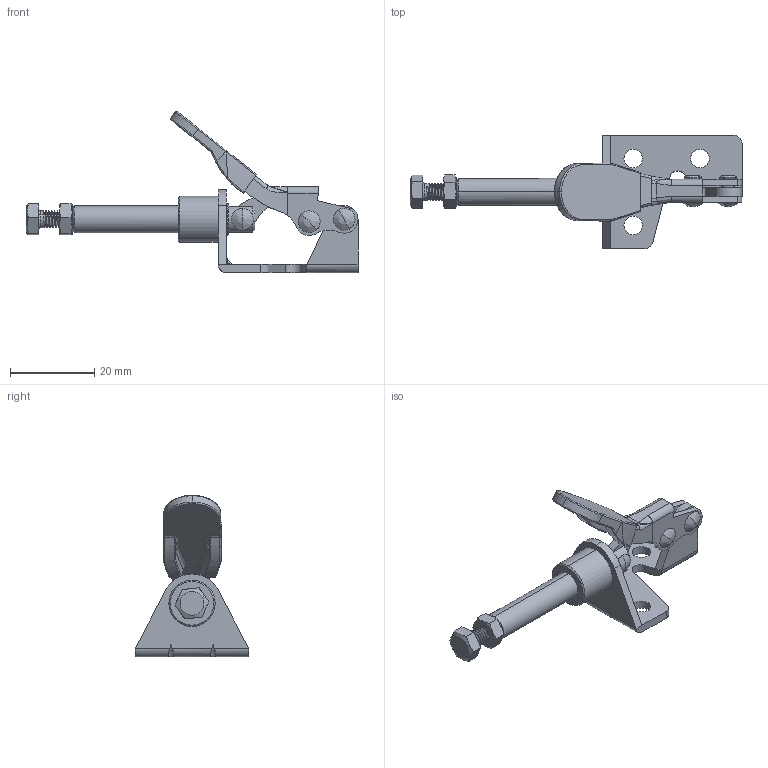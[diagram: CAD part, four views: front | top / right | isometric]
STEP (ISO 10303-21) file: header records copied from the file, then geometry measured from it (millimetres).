
FILE_DESCRIPTION (( 'STEP AP214' ), '1' );
FILE_NAME ('DST-301-AM.STEP', '2022-01-13T08:20:43', ( '' ), ( '' ), 'SwSTEP 2.0', 'SolidWorks 2015', '' );
FILE_SCHEMA (( 'AUTOMOTIVE_DESIGN' ));
Length unit declared in the file: millimetre
Products named in the file (12): DST-301-06; DST-301-AM-01 BASE; DST-301-AM-04 CONNECTING-PLATE; DST-301-AM; DST-301-AM-05 LEAD SET; DST-301-03-02; DST-301-AM-03 HANDLE; DST-301-AM-02 CREST STALK; DST-SA-042007 SPINDLE SUPPLIED; DST-M4 Nut; DST-301-03-01; DST-301-07
Assembly tree (12 placements, depth 3):
  DST-301-AM
    DST-301-AM-01 BASE
    DST-301-AM-02 CREST STALK
    DST-301-AM-05 LEAD SET
    DST-301-AM-04 CONNECTING-PLATE
    DST-301-AM-03 HANDLE
      DST-301-03-01
      DST-301-03-02
    DST-301-07
    DST-M4 Nut
    DST-301-06  x2
    DST-SA-042007 SPINDLE SUPPLIED
Bounding box: 79.02 x 27 x 38.41 mm (x, y, z)
Volume: 5663.3 mm3; surface area: 9061.5 mm2
Topology: 11 solids, 11 shells, 436 faces, 1157 edges, 735 vertices
Faces by surface type: cylinder 230, plane 104, bspline 70, cone 32
Entity records: 20783 total; most frequent: CARTESIAN_POINT 11076, ORIENTED_EDGE 2234, DIRECTION 1601, EDGE_CURVE 1117, VERTEX_POINT 721, AXIS2_PLACEMENT_3D 596, EDGE_LOOP 462, ADVANCED_FACE 424
